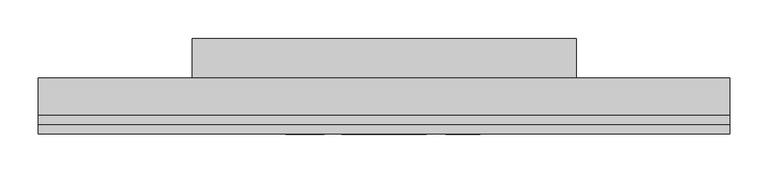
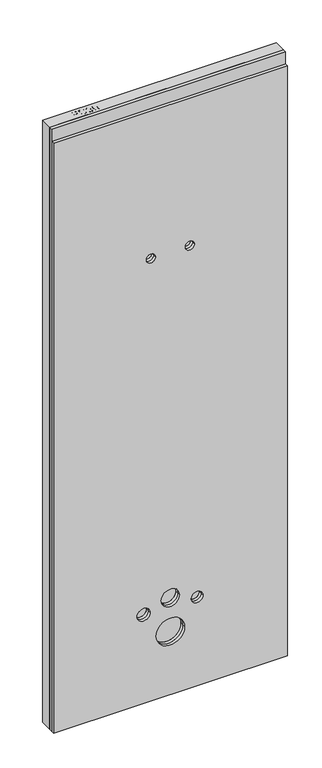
"""IFC4 building model written with IfcOpenShell, lengths in millimetres: proxy geometry, ParedeSanita_Blufab : Parede Sanita - Largura 90 cm."""

from ifc_helpers import new_model, si_unit, point, frame, frame_2d, origin, origin_with_axes, place, context, project, spatial, polyline, circle_curve, trimmed, segment, composite_curve, outline, extrude, source, transform, mapped, element, save


def generic_models_2c183811(model_context):
    return source(origin(), model_context, "Body", "SweptSolid", [
        extrude(outline(polyline([(700.0, 25.0126803), (200.0, 25.0126803), (200.0, 125.0126803), (700.0, 125.0126803), (700.0, 25.0126803)])), origin_with_axes(), (0.0, 0.0, 1.0), 1000.0),
        extrude(outline(polyline([(2450.0, 900.0), (2450.0, 0.0), (0.0, 0.0), (0.0, 900.0), (2450.0, 900.0)]), holes=[composite_curve([segment(trimmed(circle_curve(frame_2d((360.0, 553.0)), 22.5), [point((360.0, 575.5))], [point((360.0, 530.5))], True, "CARTESIAN"), True, "CONTINUOUS"), segment(trimmed(circle_curve(frame_2d((360.0, 553.0)), 22.5), [point((360.0, 530.5))], [point((360.0, 575.5))], True, "CARTESIAN"), True, "CONTINUOUS")], self_intersect=False), composite_curve([segment(trimmed(circle_curve(frame_2d((360.0, 347.0)), 25.0), [point((360.0, 372.0))], [point((360.0, 322.0))], True, "CARTESIAN"), True, "CONTINUOUS"), segment(trimmed(circle_curve(frame_2d((360.0, 347.0)), 25.0), [point((360.0, 322.0))], [point((360.0, 372.0))], True, "CARTESIAN"), True, "CONTINUOUS")], self_intersect=False), composite_curve([segment(trimmed(circle_curve(frame_2d((1800.0, 375.0)), 17.5), [point((1800.0, 392.5))], [point((1800.0, 357.5))], True, "CARTESIAN"), True, "CONTINUOUS"), segment(trimmed(circle_curve(frame_2d((1800.0, 375.0)), 17.5), [point((1800.0, 357.5))], [point((1800.0, 392.5))], True, "CARTESIAN"), True, "CONTINUOUS")], self_intersect=False), composite_curve([segment(trimmed(circle_curve(frame_2d((1800.0, 525.0)), 17.5), [point((1800.0, 542.5))], [point((1800.0, 507.5))], True, "CARTESIAN"), True, "CONTINUOUS"), segment(trimmed(circle_curve(frame_2d((1800.0, 525.0)), 17.5), [point((1800.0, 507.5))], [point((1800.0, 542.5))], True, "CARTESIAN"), True, "CONTINUOUS")], self_intersect=False), composite_curve([segment(trimmed(circle_curve(frame_2d((393.0, 450.0)), 35.0), [point((393.0, 485.0))], [point((393.0, 415.0))], True, "CARTESIAN"), True, "CONTINUOUS"), segment(trimmed(circle_curve(frame_2d((393.0, 450.0)), 35.0), [point((393.0, 415.0))], [point((393.0, 485.0))], True, "CARTESIAN"), True, "CONTINUOUS")], self_intersect=False), composite_curve([segment(trimmed(circle_curve(frame_2d((256.0, 450.0)), 55.0), [point((256.0, 505.0))], [point((256.0, 395.0))], True, "CARTESIAN"), True, "CONTINUOUS"), segment(trimmed(circle_curve(frame_2d((256.0, 450.0)), 55.0), [point((256.0, 395.0))], [point((256.0, 505.0))], True, "CARTESIAN"), True, "CONTINUOUS")], self_intersect=False)]), frame((0.0, 25.0126803, 0.0), z_axis=(0.0, 1.0, 0.0), x_axis=(0.0, 0.0, 1.0)), (0.0, 0.0, 1.0), 47.9873197),
        extrude(outline(polyline([(2450.0, 900.0), (2450.0, 0.0), (0.0, 0.0), (0.0, 900.0), (2450.0, 900.0)]), holes=[composite_curve([segment(trimmed(circle_curve(frame_2d((360.0, 553.0)), 22.5), [point((360.0, 575.5))], [point((360.0, 530.5))], True, "CARTESIAN"), True, "CONTINUOUS"), segment(trimmed(circle_curve(frame_2d((360.0, 553.0)), 22.5), [point((360.0, 530.5))], [point((360.0, 575.5))], True, "CARTESIAN"), True, "CONTINUOUS")], self_intersect=False), composite_curve([segment(trimmed(circle_curve(frame_2d((360.0, 347.0)), 25.0), [point((360.0, 372.0))], [point((360.0, 322.0))], True, "CARTESIAN"), True, "CONTINUOUS"), segment(trimmed(circle_curve(frame_2d((360.0, 347.0)), 25.0), [point((360.0, 322.0))], [point((360.0, 372.0))], True, "CARTESIAN"), True, "CONTINUOUS")], self_intersect=False), composite_curve([segment(trimmed(circle_curve(frame_2d((1800.0, 375.0)), 17.5), [point((1800.0, 392.5))], [point((1800.0, 357.5))], True, "CARTESIAN"), True, "CONTINUOUS"), segment(trimmed(circle_curve(frame_2d((1800.0, 375.0)), 17.5), [point((1800.0, 357.5))], [point((1800.0, 392.5))], True, "CARTESIAN"), True, "CONTINUOUS")], self_intersect=False), composite_curve([segment(trimmed(circle_curve(frame_2d((1800.0, 525.0)), 17.5), [point((1800.0, 542.5))], [point((1800.0, 507.5))], True, "CARTESIAN"), True, "CONTINUOUS"), segment(trimmed(circle_curve(frame_2d((1800.0, 525.0)), 17.5), [point((1800.0, 507.5))], [point((1800.0, 542.5))], True, "CARTESIAN"), True, "CONTINUOUS")], self_intersect=False), composite_curve([segment(trimmed(circle_curve(frame_2d((393.0, 450.0)), 35.0), [point((393.0, 485.0))], [point((393.0, 415.0))], True, "CARTESIAN"), True, "CONTINUOUS"), segment(trimmed(circle_curve(frame_2d((393.0, 450.0)), 35.0), [point((393.0, 415.0))], [point((393.0, 485.0))], True, "CARTESIAN"), True, "CONTINUOUS")], self_intersect=False), composite_curve([segment(trimmed(circle_curve(frame_2d((256.0, 450.0)), 55.0), [point((256.0, 505.0))], [point((256.0, 395.0))], True, "CARTESIAN"), True, "CONTINUOUS"), segment(trimmed(circle_curve(frame_2d((256.0, 450.0)), 55.0), [point((256.0, 395.0))], [point((256.0, 505.0))], True, "CARTESIAN"), True, "CONTINUOUS")], self_intersect=False)]), frame((0.0, 12.5126803, 0.0), z_axis=(0.0, 1.0, 0.0), x_axis=(0.0, 0.0, 1.0)), (0.0, 0.0, 1.0), 12.5),
        extrude(outline(polyline([(2400.0, 900.0), (2400.0, 0.0), (0.0, 0.0), (0.0, 900.0), (2400.0, 900.0)]), holes=[composite_curve([segment(trimmed(circle_curve(frame_2d((360.0, 553.0)), 22.5), [point((360.0, 575.5))], [point((360.0, 530.5))], True, "CARTESIAN"), True, "CONTINUOUS"), segment(trimmed(circle_curve(frame_2d((360.0, 553.0)), 22.5), [point((360.0, 530.5))], [point((360.0, 575.5))], True, "CARTESIAN"), True, "CONTINUOUS")], self_intersect=False), composite_curve([segment(trimmed(circle_curve(frame_2d((360.0, 347.0)), 25.0), [point((360.0, 372.0))], [point((360.0, 322.0))], True, "CARTESIAN"), True, "CONTINUOUS"), segment(trimmed(circle_curve(frame_2d((360.0, 347.0)), 25.0), [point((360.0, 322.0))], [point((360.0, 372.0))], True, "CARTESIAN"), True, "CONTINUOUS")], self_intersect=False), composite_curve([segment(trimmed(circle_curve(frame_2d((1800.0, 375.0)), 17.5), [point((1800.0, 392.5))], [point((1800.0, 357.5))], True, "CARTESIAN"), True, "CONTINUOUS"), segment(trimmed(circle_curve(frame_2d((1800.0, 375.0)), 17.5), [point((1800.0, 357.5))], [point((1800.0, 392.5))], True, "CARTESIAN"), True, "CONTINUOUS")], self_intersect=False), composite_curve([segment(trimmed(circle_curve(frame_2d((1800.0, 525.0)), 17.5), [point((1800.0, 542.5))], [point((1800.0, 507.5))], True, "CARTESIAN"), True, "CONTINUOUS"), segment(trimmed(circle_curve(frame_2d((1800.0, 525.0)), 17.5), [point((1800.0, 507.5))], [point((1800.0, 542.5))], True, "CARTESIAN"), True, "CONTINUOUS")], self_intersect=False), composite_curve([segment(trimmed(circle_curve(frame_2d((393.0, 450.0)), 35.0), [point((393.0, 485.0))], [point((393.0, 415.0))], True, "CARTESIAN"), True, "CONTINUOUS"), segment(trimmed(circle_curve(frame_2d((393.0, 450.0)), 35.0), [point((393.0, 415.0))], [point((393.0, 485.0))], True, "CARTESIAN"), True, "CONTINUOUS")], self_intersect=False), composite_curve([segment(trimmed(circle_curve(frame_2d((256.0, 450.0)), 55.0), [point((256.0, 505.0))], [point((256.0, 395.0))], True, "CARTESIAN"), True, "CONTINUOUS"), segment(trimmed(circle_curve(frame_2d((256.0, 450.0)), 55.0), [point((256.0, 395.0))], [point((256.0, 505.0))], True, "CARTESIAN"), True, "CONTINUOUS")], self_intersect=False)]), frame((0.0, 0.0, 0.0), z_axis=(0.0, 1.0, 0.0), x_axis=(0.0, 0.0, 1.0)), (0.0, 0.0, 1.0), 12.5),
        extrude(outline(polyline([(102.4402157, 34.0063401), (102.4402157, 64.1432332), (113.609113, 64.1432332), (118.1119887, 63.8562852), (121.7724145, 62.4472972), (124.1452534, 59.5336718), (125.0428854, 55.4244299), (122.6185431, 48.9129186), (113.8666304, 46.2494529), (106.2073273, 46.2494529), (106.2073273, 34.0063401), (102.4402157, 34.0063401)]), holes=[polyline([(106.2073273, 50.0165646), (114.0873596, 50.0165646), (119.6350201, 51.3998009), (121.2757738, 55.2919924), (120.3082442, 58.4116317), (117.7661796, 60.1186041), (113.999068, 60.3761215), (106.2073273, 60.3761215), (106.2073273, 50.0165646)])]), origin_with_axes(), (0.0, 0.0, 1.0), 2450.0),
        extrude(outline(polyline([(128.8099971, 44.3658971), (132.5771087, 44.3658971), (133.7911193, 40.5951067), (136.7562482, 38.2112313), (141.2738391, 37.3025628), (145.2101764, 37.9905021), (147.752241, 39.8814156), (148.5873331, 42.4087649), (147.9619337, 44.7595308), (145.4014751, 46.4701821), (139.9163545, 47.9086007), (134.0118485, 49.7664048), (130.8075963, 52.5696656), (129.751775, 56.3147043), (131.0577561, 60.5784566), (134.8726924, 63.5877314), (140.457141, 64.6141221), (146.4168294, 63.5399067), (150.3899549, 60.3834792), (151.8835558, 55.667232), (148.1164442, 55.667232), (145.9827286, 59.5373506), (140.6042938, 60.8470105), (135.2111438, 59.5520659), (133.5188866, 56.4250689), (134.7181819, 53.8131067), (140.8691689, 51.7088217), (147.5351906, 49.8179083), (151.1809012, 46.7644877), (152.3544448, 42.5044142), (151.0043178, 37.9978598), (147.119484, 34.7089947), (141.4209919, 33.5354512), (134.6924302, 34.8009652), (130.4360355, 38.6122227), (128.8099971, 44.3658971)])), origin_with_axes(), (0.0, 0.0, 1.0), 2450.0),
        extrude(outline(polyline([(157.0633343, 41.5405634), (160.8304459, 42.0114523), (162.5227031, 38.4172453), (165.7306341, 37.3025628), (168.7803759, 38.0199327), (170.8478727, 39.9365979), (172.0802774, 43.2107476), (172.6247427, 47.5811858), (169.5897162, 45.4621855), (165.4584014, 44.3658971), (159.1639405, 47.044078), (156.5924454, 54.1000547), (159.2890204, 61.3841182), (166.0470126, 64.1432332), (171.4144109, 62.5686982), (175.1079462, 58.0805379), (176.3697814, 49.6486826), (175.111625, 40.4994573), (171.3702651, 35.316), (165.5540508, 33.5354512), (159.7635882, 35.6360574), (157.0633343, 41.5405634)]), holes=[polyline([(172.6026698, 54.1883464), (170.9766314, 58.7059373), (166.6576967, 60.3761215), (162.1253906, 58.5771786), (160.359557, 53.9161137), (162.0297412, 49.7406531), (166.5546898, 48.1330087), (170.8993761, 49.7406531), (172.6026698, 54.1883464)])]), origin_with_axes(), (0.0, 0.0, 1.0), 2450.0),
        extrude(outline(polyline([(179.6660041, 48.8319845), (180.7733289, 57.5029632), (184.0621939, 62.5024795), (189.5546721, 64.1432332), (193.9545408, 63.1720247), (196.9932461, 60.3724427), (198.7590796, 55.9137129), (199.4433402, 48.8319845), (198.3470518, 40.1977941), (195.0692232, 35.1872413), (189.5546721, 33.5354512), (182.6679212, 36.4049307), (179.6660041, 48.8319845)]), holes=[polyline([(183.4331157, 48.8393422), (185.1989493, 39.484103), (189.5546721, 37.3025628), (193.9103949, 39.4914607), (195.6762285, 48.8393422), (193.9692561, 58.0878955), (189.5105263, 60.3761215), (185.2578104, 58.3601282), (183.4331157, 48.8393422)])]), origin_with_axes(), (0.0, 0.0, 1.0), 2450.0),
    ])


if __name__ == "__main__":
    model = new_model("IFC4")
    model_context = context("Model", 3, world=origin())
    ifc_project = project(units=[si_unit("LENGTHUNIT", "METRE", prefix="MILLI")], contexts=[model_context])
    site = spatial("IfcSite", under=ifc_project)
    building = spatial("IfcBuilding", under=site)
    placement = place(None, origin())
    generic_models_shape = generic_models_2c183811(model_context)
    element("IfcBuildingElementProxy", 1, Name="ParedeSanita_Blufab : Parede Sanita - Largura 90 cm", ObjectType="ParedeSanita_Blufab : Parede Sanita - Largura 90 cm", at=placement, inside=building, context=model_context, shape_type="MappedRepresentation", body=[
        mapped(generic_models_shape, transform((0.0, 0.0, 0.0), x_axis=(1.0, 0.0, 0.0), y_axis=(0.0, 1.0, 0.0), z_axis=(0.0, 0.0, 1.0))),
    ])
    save(model, "model.ifc")
